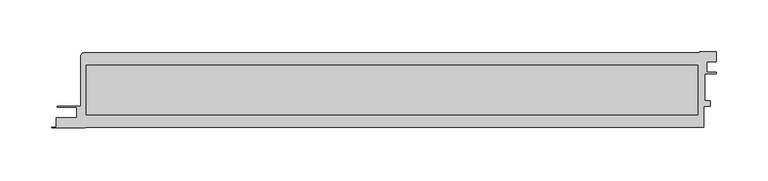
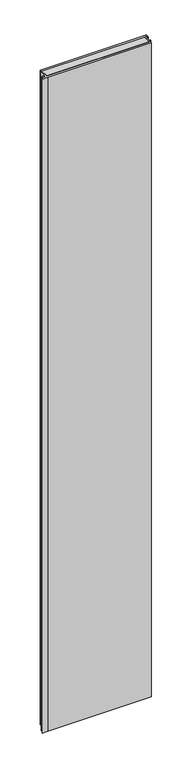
"""IFC4 building model written with IfcOpenShell, lengths in millimetres: plate geometry, Walls_External-Walls_Danpal_Danpatherm-K7-with-NM-Frame : Walls_External-Walls_Danpal_Danpatherm-K7-with-NM-Frame."""

from ifc_helpers import new_model, si_unit, point, frame, frame_2d, origin, place, context, project, spatial, polyline, circle_curve, trimmed, segment, composite_curve, outline, extrude, source, transform, mapped, element, save


def plate_de253ded(model_context):
    return source(origin(), model_context, "Body", "SweptSolid", [
        extrude(outline(polyline([(288.3296211, 12.7999917), (-300.3916513, 12.7999917), (-300.3916513, 60.3432727), (288.3296211, 60.3432727), (288.3296211, 12.7999917)])), frame((0.0, 0.0, -22.0), z_axis=(0.0, 0.0, 1.0), x_axis=(1.0, 0.0, 0.0)), (0.0, 0.0, 1.0), 3970.063098),
        extrude(outline(composite_curve([segment(polyline([(296.7707746, 53.4717617), (305.9880302, 53.4717617), (305.9880302, 52.1717185), (295.2689841, 52.1717185), (295.2689841, 26.0716456), (300.2689846, 26.0716456), (300.2689846, 20.9715623), (293.9689846, 20.9715623), (293.9689846, 0.8), (-301.7310216, 0.8), (-301.7310216, 0.0), (-333.6310216, 0.0), (-333.6310216, 0.8), (-329.4310216, 0.8), (-329.4310216, 9.7656785), (-309.6012618, 9.7656785), (-309.6012618, 19.6715177), (-328.5574075, 19.6715177), (-328.5574075, 20.9715623), (-305.9880302, 20.9715623), (-305.9880302, 68.5003761)]), True, "CONTINUOUS"), segment(trimmed(circle_curve(frame_2d((-302.1451213, 68.5003761)), 3.8429089), [point((-305.9880302, 68.5003761))], [point((-302.1451213, 72.343285))], False, "CARTESIAN"), True, "CONTINUOUS"), segment(polyline([(-302.1451213, 72.343285), (290.0688276, 72.343285), (290.0688276, 73.143285), (305.9880302, 73.143285), (305.9880302, 63.4717658), (296.7707746, 63.4717658), (296.7707746, 53.4717617)]), True, "CONTINUOUS")], self_intersect=False), holes=[polyline([(288.3296211, 12.7999917), (288.3296211, 60.3432727), (-300.3916513, 60.3432727), (-300.3916513, 12.7999917), (288.3296211, 12.7999917)])]), frame((0.0, 0.0, -22.0), z_axis=(0.0, 0.0, 1.0), x_axis=(1.0, 0.0, 0.0)), (0.0, 0.0, 1.0), 3970.063098),
    ])


if __name__ == "__main__":
    model = new_model("IFC4")
    model_context = context("Model", 3, world=origin())
    ifc_project = project(units=[si_unit("LENGTHUNIT", "METRE", prefix="MILLI")], contexts=[model_context])
    site = spatial("IfcSite", under=ifc_project)
    building = spatial("IfcBuilding", under=site)
    placement = place(None, origin())
    plate_shape = plate_de253ded(model_context)
    element("IfcPlate", 1, ObjectType="Walls_External-Walls_Danpal_Danpatherm-K7-with-NM-Frame : Walls_External-Walls_Danpal_Danpatherm-K7-with-NM-Frame", at=placement, inside=building, context=model_context, shape_type="MappedRepresentation", body=[
        mapped(plate_shape, transform((0.0, 0.0, 0.0), x_axis=(1.0, 0.0, 0.0), y_axis=(0.0, 1.0, 0.0), z_axis=(0.0, 0.0, 1.0))),
    ])
    save(model, "model.ifc")
